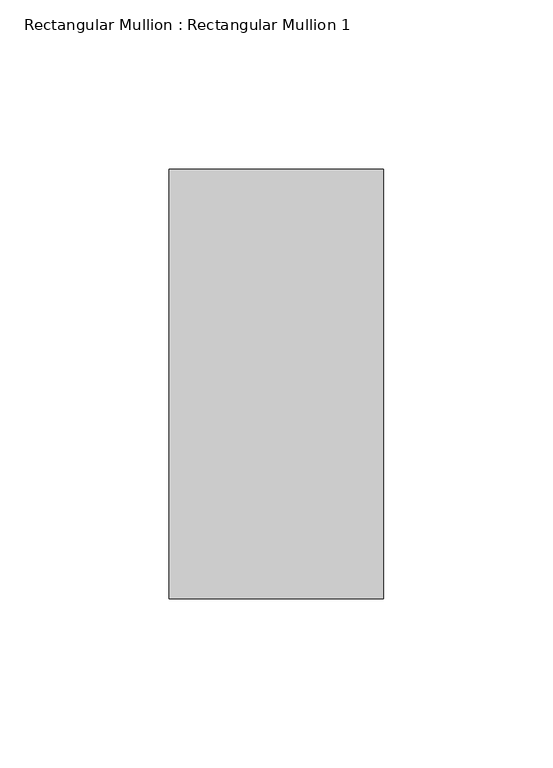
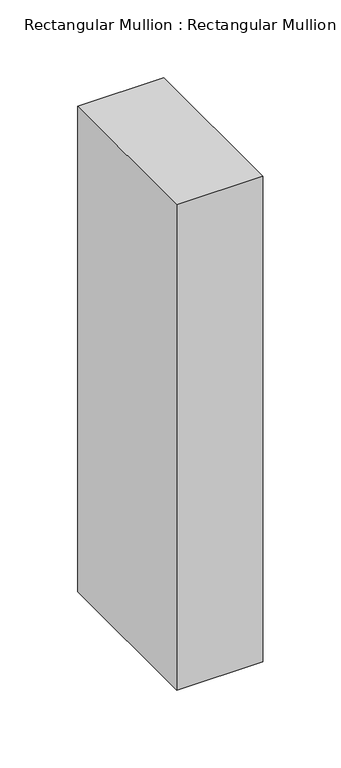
"""IFC4 building model written with IfcOpenShell, lengths in millimetres: member geometry, Rectangular Mullion : Rectangular Mullion 1."""

from ifc_helpers import new_model, si_unit, frame, origin, place, context, project, spatial, polyline, outline, extrude, source, transform, mapped, element, save


def rectangular_mullion_rectangular_mullion_1_af436bfa(model_context):
    return source(origin(), model_context, "Body", "SweptSolid", [
        extrude(outline(polyline([(0.0, 63.5), (0.0, -63.5), (-63.5, -63.5), (-63.5, 63.5), (0.0, 63.5)])), frame((0.0, 0.0, -380.0402568), z_axis=(0.0, 0.0, 1.0), x_axis=(1.0, 0.0, 0.0)), (0.0, 0.0, 1.0), 380.0402568),
    ])


if __name__ == "__main__":
    model = new_model("IFC4")
    model_context = context("Model", 3, world=origin())
    ifc_project = project(units=[si_unit("LENGTHUNIT", "METRE", prefix="MILLI")], contexts=[model_context])
    site = spatial("IfcSite", under=ifc_project)
    building = spatial("IfcBuilding", under=site)
    placement = place(None, origin())
    rectangular_mullion_rectangular_mullion_1_shape = rectangular_mullion_rectangular_mullion_1_af436bfa(model_context)
    element("IfcMember", 1, ObjectType="Rectangular Mullion : Rectangular Mullion 1", at=placement, inside=building, context=model_context, shape_type="MappedRepresentation", body=[
        mapped(rectangular_mullion_rectangular_mullion_1_shape, transform((0.0, 0.0, 0.0), x_axis=(1.0, 0.0, 0.0), y_axis=(0.0, 1.0, 0.0), z_axis=(0.0, 0.0, 1.0))),
    ])
    save(model, "model.ifc")
